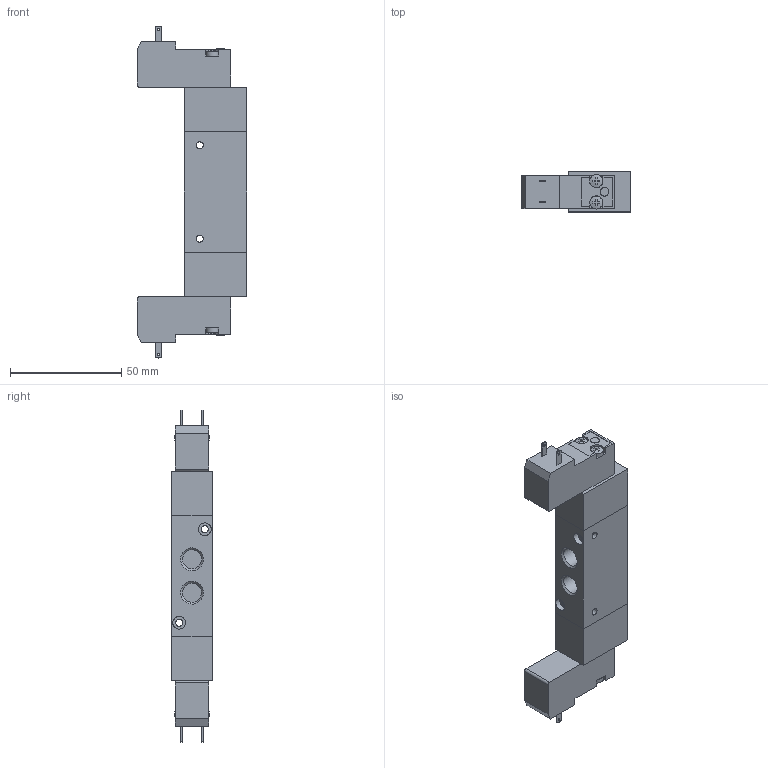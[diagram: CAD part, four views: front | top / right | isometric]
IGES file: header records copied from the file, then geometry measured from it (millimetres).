
Global section: file name: 808_53_##_0_0_##; native system: Autodesk Inventor 2017; preprocessor: unknown; organization: Pneumax S.p.A.; date: 20180116.113418; units: millimetre
Bounding box: 49 x 18 x 148.99 mm (x, y, z)
Volume: 66854.5 mm3; surface area: 20758.7 mm2
Topology: 5 solids, 5 shells, 241 faces, 662 edges, 452 vertices
Faces by surface type: bspline 241
